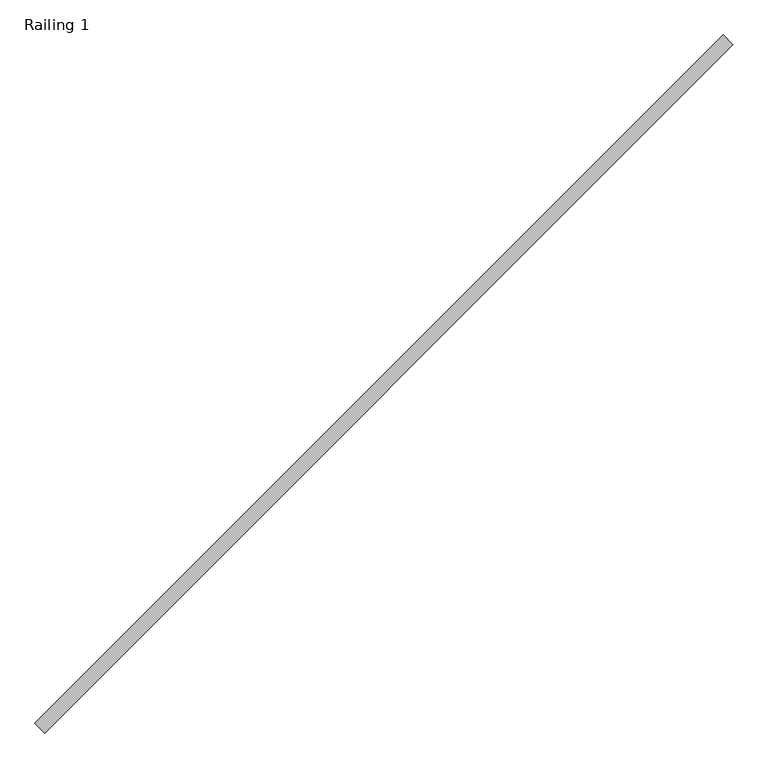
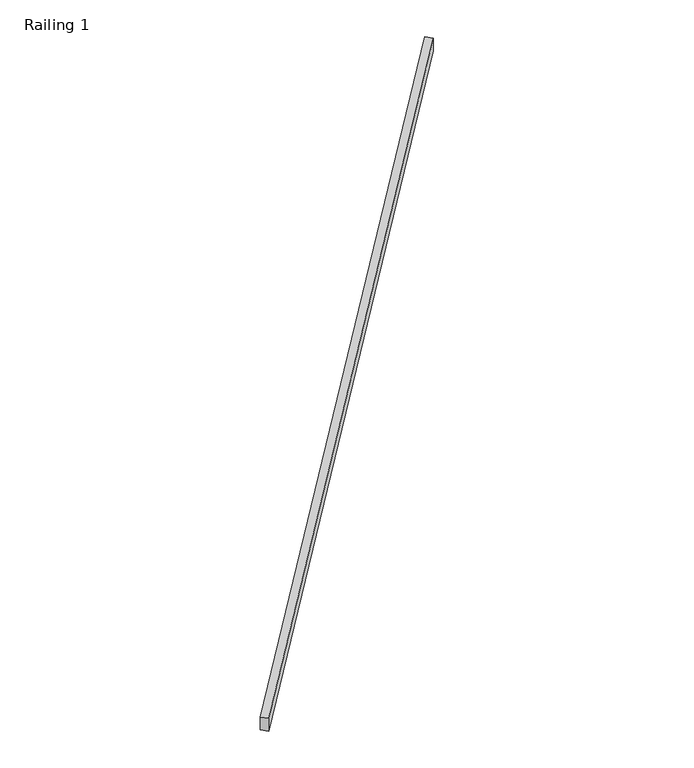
"""IFC4 building model written with IfcOpenShell, lengths in millimetres: railing geometry, Railing 1."""

from ifc_helpers import new_model, si_unit, frame, origin, place, context, project, spatial, polyline, outline, extrude, source, transform, mapped, element, save


def railing_1_4b42a0d8(model_context):
    return source(origin(), model_context, "Body", "SweptSolid", [
        extrude(outline(polyline([(47.8414773, -76.2), (0.0, 0.0), (4288.7411367, 1e-07), (4336.582614, -76.2), (47.8414773, -76.2)])), frame((-55894.0435615, 8383.857903, -5007.2548403), z_axis=(-0.7071067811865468, 0.7071067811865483, 0.0), x_axis=(0.5988594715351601, 0.5988594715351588, 0.531728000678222)), (0.0, 0.0, 1.0), 50.8),
    ])


if __name__ == "__main__":
    model = new_model("IFC4")
    model_context = context("Model", 3, world=origin())
    ifc_project = project(units=[si_unit("LENGTHUNIT", "METRE", prefix="MILLI")], contexts=[model_context])
    site = spatial("IfcSite", under=ifc_project)
    building = spatial("IfcBuilding", under=site)
    placement = place(None, origin())
    railing_1_shape = railing_1_4b42a0d8(model_context)
    element("IfcRailing", 1, ObjectType="Railing 1", at=placement, inside=building, context=model_context, shape_type="MappedRepresentation", body=[
        mapped(railing_1_shape, transform((0.0, 0.0, 0.0), x_axis=(1.0, 0.0, 0.0), y_axis=(0.0, 1.0, 0.0), z_axis=(0.0, 0.0, 1.0))),
    ])
    save(model, "model.ifc")
